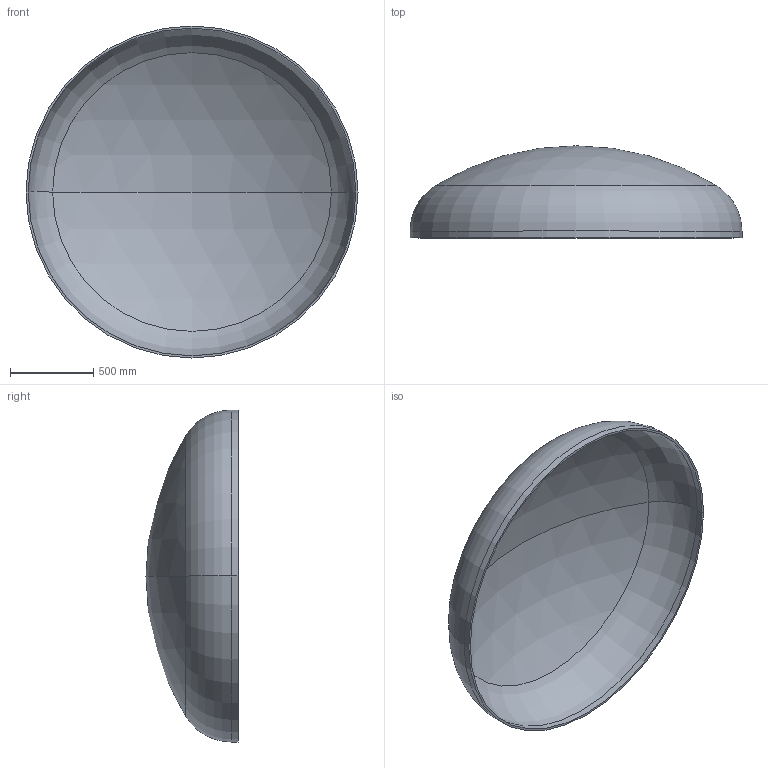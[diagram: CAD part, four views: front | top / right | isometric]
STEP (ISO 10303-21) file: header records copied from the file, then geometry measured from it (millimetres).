
FILE_DESCRIPTION (( 'STEP AP203' ), '1' );
FILE_NAME ('DIN 28013 Korbbogenform_-_Boden DIN 28013 - 2000 x 40 - I - s=13.step', '2016-07-01T13:37:19', ( '' ), ( '' ), 'SwSTEP 2.0', 'SolidWorks 2013', '' );
FILE_SCHEMA (( 'CONFIG_CONTROL_DESIGN' ));
Length unit declared in the file: millimetre
Products named in the file (1): DIN 28013 Korbbogenform_-_Boden DIN 28013 - 2000 x 40 - I - s=13
Bounding box: 2000 x 554.92 x 2000 mm (x, y, z)
Volume: 59397845.7 mm3; surface area: 9219631 mm2
Topology: 1 solids, 1 shells, 13 faces, 24 edges, 14 vertices
Faces by surface type: torus 4, cylinder 4, sphere 4, plane 1
Entity records: 407 total; most frequent: DIRECTION 72, CARTESIAN_POINT 52, ORIENTED_EDGE 48, AXIS2_PLACEMENT_3D 34, EDGE_CURVE 24, CIRCLE 20, EDGE_LOOP 14, VERTEX_POINT 14
